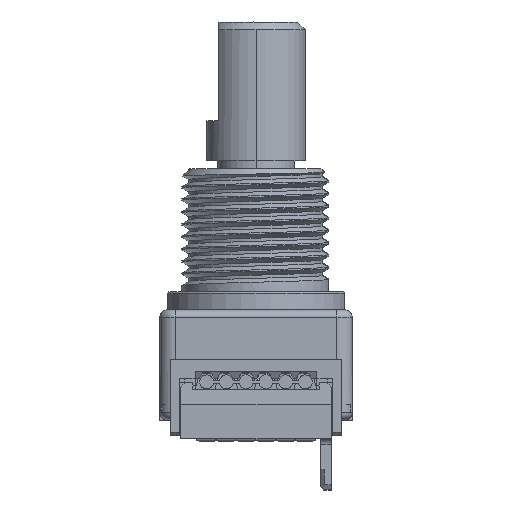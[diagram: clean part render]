
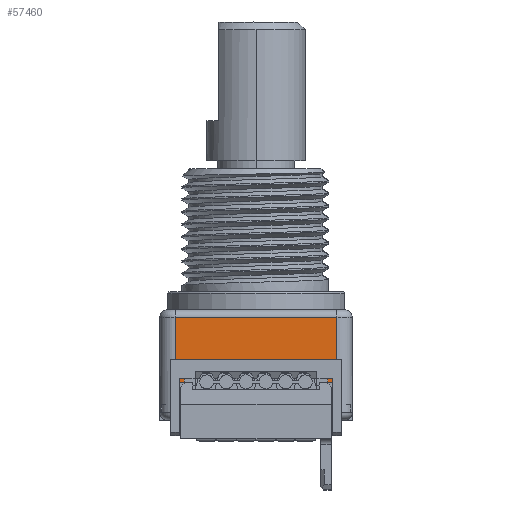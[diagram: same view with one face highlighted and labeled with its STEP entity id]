
A CAD part, top view. The second image highlights one B-rep face of the part: STEP entity #57460.
In plain terms, the highlighted planar face has unit normal (0, 0, 1).
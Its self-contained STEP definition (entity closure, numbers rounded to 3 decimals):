
#50700=CARTESIAN_POINT('',(5.2,-0.5,7.4));
#50710=VERTEX_POINT('',#50700);
#50980=CARTESIAN_POINT('',(-5.2,-0.5,7.4));
#50990=DIRECTION('',(1.,0.,0.));
#51000=VECTOR('',#50990,1.);
#51010=LINE('',#50980,#51000);
#51020=CARTESIAN_POINT('',(-5.2,-0.5,7.4));
#51030=VERTEX_POINT('',#51020);
#51040=EDGE_CURVE('',#51030,#50710,#51010,.T.);
#51620=CARTESIAN_POINT('',(-5.2,-6.6,7.4));
#51630=DIRECTION('',(0.,1.,0.));
#51640=VECTOR('',#51630,1.);
#51650=LINE('',#51620,#51640);
#51660=CARTESIAN_POINT('',(-5.2,-6.6,7.4));
#51670=VERTEX_POINT('',#51660);
#51680=EDGE_CURVE('',#51670,#51030,#51650,.T.);
#52470=CARTESIAN_POINT('',(-4.5,-6.6,7.4));
#52480=VERTEX_POINT('',#52470);
#54290=CARTESIAN_POINT('',(-4.5,-6.6,7.4));
#54300=DIRECTION('',(-1.,0.,0.));
#54310=VECTOR('',#54300,1.);
#54320=LINE('',#54290,#54310);
#54330=EDGE_CURVE('',#52480,#51670,#54320,.T.);
#56160=CARTESIAN_POINT('',(-5.2,-6.1,7.4));
#56170=DIRECTION('',(0.,0.,1.));
#56180=DIRECTION('',(1.,0.,0.));
#56190=AXIS2_PLACEMENT_3D('',#56160,#56170,#56180);
#56200=PLANE('',#56190);
#56210=CARTESIAN_POINT('',(4.2,-5.8,7.4));
#56220=DIRECTION('',(1.,0.,0.));
#56230=VECTOR('',#56220,1.);
#56240=LINE('',#56210,#56230);
#56250=CARTESIAN_POINT('',(4.2,-5.8,7.4));
#56260=VERTEX_POINT('',#56250);
#56270=CARTESIAN_POINT('',(4.5,-5.8,7.4));
#56280=VERTEX_POINT('',#56270);
#56290=EDGE_CURVE('',#56260,#56280,#56240,.T.);
#56300=ORIENTED_EDGE('',*,*,#56290,.T.);
#56310=CARTESIAN_POINT('',(4.2,-5.8,7.4));
#56320=DIRECTION('',(0.,1.,0.));
#56330=VECTOR('',#56320,1.);
#56340=LINE('',#56310,#56330);
#56350=CARTESIAN_POINT('',(4.2,-5.2,7.4));
#56360=VERTEX_POINT('',#56350);
#56370=EDGE_CURVE('',#56260,#56360,#56340,.T.);
#56380=ORIENTED_EDGE('',*,*,#56370,.F.);
#56390=CARTESIAN_POINT('',(4.2,-5.2,7.4));
#56400=DIRECTION('',(1.,0.,0.));
#56410=VECTOR('',#56400,1.);
#56420=LINE('',#56390,#56410);
#56430=CARTESIAN_POINT('',(4.5,-5.2,7.4));
#56440=VERTEX_POINT('',#56430);
#56450=EDGE_CURVE('',#56360,#56440,#56420,.T.);
#56460=ORIENTED_EDGE('',*,*,#56450,.F.);
#56470=CARTESIAN_POINT('',(4.5,-5.2,7.4));
#56480=DIRECTION('',(0.,1.,0.));
#56490=VECTOR('',#56480,1.);
#56500=LINE('',#56470,#56490);
#56510=CARTESIAN_POINT('',(4.5,-4.,7.4));
#56520=VERTEX_POINT('',#56510);
#56530=EDGE_CURVE('',#56440,#56520,#56500,.T.);
#56540=ORIENTED_EDGE('',*,*,#56530,.F.);
#56550=CARTESIAN_POINT('',(3.85,-4.,7.4));
#56560=DIRECTION('',(0.,0.,-1.));
#56570=DIRECTION('',(0.,1.,0.));
#56580=AXIS2_PLACEMENT_3D('',#56550,#56560,#56570);
#56590=CIRCLE('',#56580,0.65);
#56600=CARTESIAN_POINT('',(3.85,-3.35,7.4));
#56610=VERTEX_POINT('',#56600);
#56620=EDGE_CURVE('',#56610,#56520,#56590,.T.);
#56630=ORIENTED_EDGE('',*,*,#56620,.T.);
#56640=CARTESIAN_POINT('',(3.85,-3.35,7.4));
#56650=DIRECTION('',(-1.,0.,0.));
#56660=VECTOR('',#56650,1.);
#56670=LINE('',#56640,#56660);
#56680=CARTESIAN_POINT('',(-3.85,-3.35,7.4));
#56690=VERTEX_POINT('',#56680);
#56700=EDGE_CURVE('',#56610,#56690,#56670,.T.);
#56710=ORIENTED_EDGE('',*,*,#56700,.F.);
#56720=CARTESIAN_POINT('',(-3.85,-4.,7.4));
#56730=DIRECTION('',(0.,0.,-1.));
#56740=DIRECTION('',(-1.,0.,0.));
#56750=AXIS2_PLACEMENT_3D('',#56720,#56730,#56740);
#56760=CIRCLE('',#56750,0.65);
#56770=CARTESIAN_POINT('',(-4.5,-4.,7.4));
#56780=VERTEX_POINT('',#56770);
#56790=EDGE_CURVE('',#56780,#56690,#56760,.T.);
#56800=ORIENTED_EDGE('',*,*,#56790,.T.);
#56810=CARTESIAN_POINT('',(-4.5,-4.,7.4));
#56820=DIRECTION('',(0.,-1.,0.));
#56830=VECTOR('',#56820,1.);
#56840=LINE('',#56810,#56830);
#56850=CARTESIAN_POINT('',(-4.5,-5.2,7.4));
#56860=VERTEX_POINT('',#56850);
#56870=EDGE_CURVE('',#56780,#56860,#56840,.T.);
#56880=ORIENTED_EDGE('',*,*,#56870,.F.);
#56890=CARTESIAN_POINT('',(-4.5,-5.2,7.4));
#56900=DIRECTION('',(1.,0.,0.));
#56910=VECTOR('',#56900,1.);
#56920=LINE('',#56890,#56910);
#56930=CARTESIAN_POINT('',(-4.2,-5.2,7.4));
#56940=VERTEX_POINT('',#56930);
#56950=EDGE_CURVE('',#56860,#56940,#56920,.T.);
#56960=ORIENTED_EDGE('',*,*,#56950,.F.);
#56970=CARTESIAN_POINT('',(-4.2,-5.2,7.4));
#56980=DIRECTION('',(0.,-1.,0.));
#56990=VECTOR('',#56980,1.);
#57000=LINE('',#56970,#56990);
#57010=CARTESIAN_POINT('',(-4.2,-5.8,7.4));
#57020=VERTEX_POINT('',#57010);
#57030=EDGE_CURVE('',#56940,#57020,#57000,.T.);
#57040=ORIENTED_EDGE('',*,*,#57030,.F.);
#57050=CARTESIAN_POINT('',(-4.5,-5.8,7.4));
#57060=DIRECTION('',(1.,0.,0.));
#57070=VECTOR('',#57060,1.);
#57080=LINE('',#57050,#57070);
#57090=CARTESIAN_POINT('',(-4.5,-5.8,7.4));
#57100=VERTEX_POINT('',#57090);
#57110=EDGE_CURVE('',#57100,#57020,#57080,.T.);
#57120=ORIENTED_EDGE('',*,*,#57110,.T.);
#57130=CARTESIAN_POINT('',(-4.5,-6.6,7.4));
#57140=DIRECTION('',(0.,1.,0.));
#57150=VECTOR('',#57140,1.);
#57160=LINE('',#57130,#57150);
#57170=EDGE_CURVE('',#52480,#57100,#57160,.T.);
#57180=ORIENTED_EDGE('',*,*,#57170,.T.);
#57190=ORIENTED_EDGE('',*,*,#54330,.F.);
#57200=ORIENTED_EDGE('',*,*,#51680,.F.);
#57210=ORIENTED_EDGE('',*,*,#51040,.F.);
#57220=CARTESIAN_POINT('',(5.2,-0.5,7.4));
#57230=DIRECTION('',(0.,-1.,0.));
#57240=VECTOR('',#57230,1.);
#57250=LINE('',#57220,#57240);
#57260=CARTESIAN_POINT('',(5.2,-6.6,7.4));
#57270=VERTEX_POINT('',#57260);
#57280=EDGE_CURVE('',#50710,#57270,#57250,.T.);
#57290=ORIENTED_EDGE('',*,*,#57280,.F.);
#57300=CARTESIAN_POINT('',(5.2,-6.6,7.4));
#57310=DIRECTION('',(-1.,0.,0.));
#57320=VECTOR('',#57310,1.);
#57330=LINE('',#57300,#57320);
#57340=CARTESIAN_POINT('',(4.5,-6.6,7.4));
#57350=VERTEX_POINT('',#57340);
#57360=EDGE_CURVE('',#57270,#57350,#57330,.T.);
#57370=ORIENTED_EDGE('',*,*,#57360,.F.);
#57380=CARTESIAN_POINT('',(4.5,-5.8,7.4));
#57390=DIRECTION('',(0.,-1.,0.));
#57400=VECTOR('',#57390,1.);
#57410=LINE('',#57380,#57400);
#57420=EDGE_CURVE('',#56280,#57350,#57410,.T.);
#57430=ORIENTED_EDGE('',*,*,#57420,.T.);
#57440=EDGE_LOOP('',(#57430,#57370,#57290,#57210,#57200,#57190,#57180,
#57120,#57040,#56960,#56880,#56800,#56710,#56630,#56540,#56460,#56380,
#56300));
#57450=FACE_OUTER_BOUND('',#57440,.T.);
#57460=ADVANCED_FACE('',(#57450),#56200,.T.);
